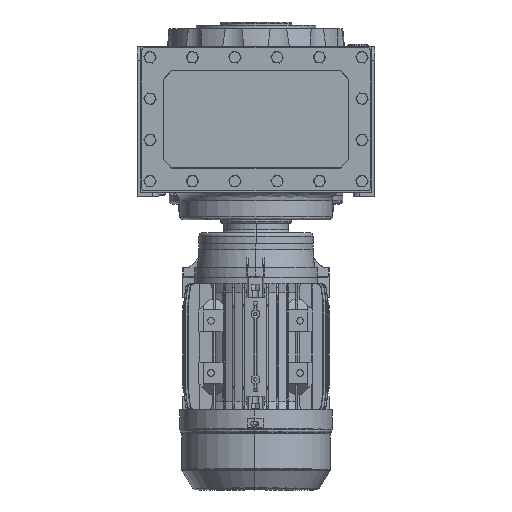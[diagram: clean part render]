
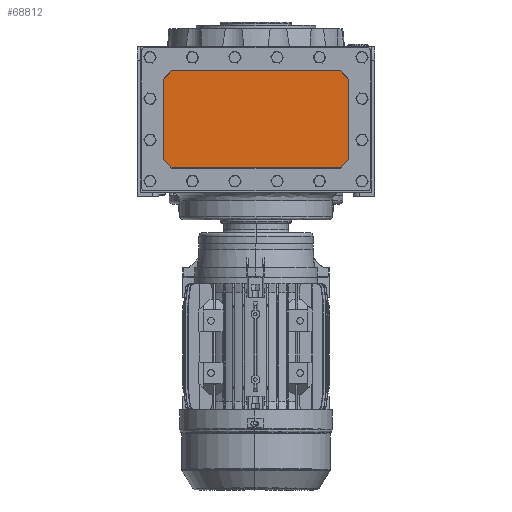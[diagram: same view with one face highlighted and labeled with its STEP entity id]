
A CAD part, front view. The second image highlights one B-rep face of the part: STEP entity #68812.
In plain terms, the highlighted planar face has unit normal (0, -1, 0).
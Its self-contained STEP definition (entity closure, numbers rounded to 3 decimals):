
#19680 = AXIS2_PLACEMENT_3D ( 'NONE', #78172, #78196, #78181 ) ;
#41529 = LINE ( 'NONE', #47770, #41532 ) ;
#41532 = VECTOR ( 'NONE', #47773, 1000. ) ;
#41753 = VECTOR ( 'NONE', #47764, 1000. ) ;
#41756 = VECTOR ( 'NONE', #47759, 1000. ) ;
#41774 = LINE ( 'NONE', #47723, #41753 ) ;
#41785 = LINE ( 'NONE', #47751, #41756 ) ;
#42351 = LINE ( 'NONE', #47789, #42464 ) ;
#42464 = VECTOR ( 'NONE', #47814, 1000. ) ;
#47723 = CARTESIAN_POINT ( 'NONE',  ( -77.5, -95., 48.036 ) ) ;
#47751 = CARTESIAN_POINT ( 'NONE',  ( 77.121, -95., 137.121 ) ) ;
#47759 = DIRECTION ( 'NONE',  ( 0.707, 0., -0.707 ) ) ;
#47764 = DIRECTION ( 'NONE',  ( -1., 0., 0. ) ) ;
#47770 = CARTESIAN_POINT ( 'NONE',  ( 85.121, -95., 55.879 ) ) ;
#47773 = DIRECTION ( 'NONE',  ( -0.707, 0., -0.707 ) ) ;
#47789 = CARTESIAN_POINT ( 'NONE',  ( -84.964, -95., 129.5 ) ) ;
#47808 = CARTESIAN_POINT ( 'NONE',  ( -77.121, -95., 137.121 ) ) ;
#47814 = DIRECTION ( 'NONE',  ( 0., 0., 1. ) ) ;
#47818 = DIRECTION ( 'NONE',  ( 0.707, 0., 0.707 ) ) ;
#52748 = EDGE_LOOP ( 'NONE', ( #95807, #95713, #95714, #95871, #95875, #95892, #95851, #95858 ) ) ;
#54909 = LINE ( 'NONE', #47808, #54971 ) ;
#54923 = VECTOR ( 'NONE', #57829, 1000. ) ;
#54959 = LINE ( 'NONE', #57849, #54923 ) ;
#54971 = VECTOR ( 'NONE', #47818, 1000. ) ;
#54981 = VECTOR ( 'NONE', #57807, 1000. ) ;
#55005 = VECTOR ( 'NONE', #57786, 1000. ) ;
#55021 = LINE ( 'NONE', #57758, #54981 ) ;
#55025 = LINE ( 'NONE', #57802, #55005 ) ;
#57758 = CARTESIAN_POINT ( 'NONE',  ( 84.964, -95., 129.5 ) ) ;
#57786 = DIRECTION ( 'NONE',  ( -0.707, 0., 0.707 ) ) ;
#57802 = CARTESIAN_POINT ( 'NONE',  ( -85.121, -95., 55.879 ) ) ;
#57807 = DIRECTION ( 'NONE',  ( 0., 0., -1. ) ) ;
#57829 = DIRECTION ( 'NONE',  ( 1., 0., 0. ) ) ;
#57849 = CARTESIAN_POINT ( 'NONE',  ( -77.5, -95., 136.964 ) ) ;
#62663 = VERTEX_POINT ( 'NONE', #63934 ) ;
#62666 = VERTEX_POINT ( 'NONE', #63972 ) ;
#62679 = VERTEX_POINT ( 'NONE', #63922 ) ;
#62763 = VERTEX_POINT ( 'NONE', #64029 ) ;
#62792 = VERTEX_POINT ( 'NONE', #64026 ) ;
#62800 = VERTEX_POINT ( 'NONE', #64027 ) ;
#62862 = VERTEX_POINT ( 'NONE', #64034 ) ;
#62962 = VERTEX_POINT ( 'NONE', #64070 ) ;
#63922 = CARTESIAN_POINT ( 'NONE',  ( -84.964, -95., 129.278 ) ) ;
#63934 = CARTESIAN_POINT ( 'NONE',  ( -77.278, -95., 136.964 ) ) ;
#63972 = CARTESIAN_POINT ( 'NONE',  ( 77.278, -95., 48.036 ) ) ;
#64026 = CARTESIAN_POINT ( 'NONE',  ( 77.278, -95., 136.964 ) ) ;
#64027 = CARTESIAN_POINT ( 'NONE',  ( -77.278, -95., 48.036 ) ) ;
#64029 = CARTESIAN_POINT ( 'NONE',  ( -84.964, -95., 55.722 ) ) ;
#64034 = CARTESIAN_POINT ( 'NONE',  ( 84.964, -95., 55.722 ) ) ;
#64070 = CARTESIAN_POINT ( 'NONE',  ( 84.964, -95., 129.278 ) ) ;
#68812 = ADVANCED_FACE ( 'NONE', ( #70410 ), #78170, .T. ) ;
#70410 = FACE_OUTER_BOUND ( 'NONE', #52748, .T. ) ;
#78170 = PLANE ( 'NONE',  #19680 ) ;
#78172 = CARTESIAN_POINT ( 'NONE',  ( 38., -95., 112.5 ) ) ;
#78181 = DIRECTION ( 'NONE',  ( 1., 0., 0. ) ) ;
#78196 = DIRECTION ( 'NONE',  ( 0., -1., 0. ) ) ;
#95713 = ORIENTED_EDGE ( 'NONE', *, *, #103051, .F. ) ;
#95714 = ORIENTED_EDGE ( 'NONE', *, *, #103036, .F. ) ;
#95807 = ORIENTED_EDGE ( 'NONE', *, *, #102999, .F. ) ;
#95851 = ORIENTED_EDGE ( 'NONE', *, *, #103016, .F. ) ;
#95858 = ORIENTED_EDGE ( 'NONE', *, *, #103042, .F. ) ;
#95871 = ORIENTED_EDGE ( 'NONE', *, *, #103023, .F. ) ;
#95875 = ORIENTED_EDGE ( 'NONE', *, *, #103048, .F. ) ;
#95892 = ORIENTED_EDGE ( 'NONE', *, *, #102994, .F. ) ;
#102994 = EDGE_CURVE ( 'NONE', #62666, #62800, #41774, .T. ) ;
#102999 = EDGE_CURVE ( 'NONE', #62792, #62962, #41785, .T. ) ;
#103016 = EDGE_CURVE ( 'NONE', #62862, #62666, #41529, .T. ) ;
#103023 = EDGE_CURVE ( 'NONE', #62763, #62679, #42351, .T. ) ;
#103036 = EDGE_CURVE ( 'NONE', #62679, #62663, #54909, .T. ) ;
#103042 = EDGE_CURVE ( 'NONE', #62962, #62862, #55021, .T. ) ;
#103048 = EDGE_CURVE ( 'NONE', #62800, #62763, #55025, .T. ) ;
#103051 = EDGE_CURVE ( 'NONE', #62663, #62792, #54959, .T. ) ;
